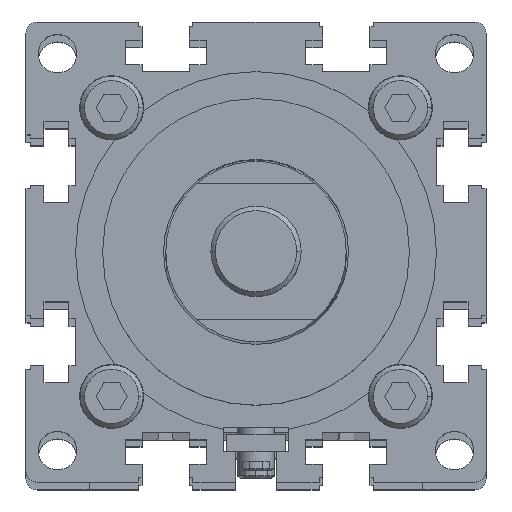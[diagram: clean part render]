
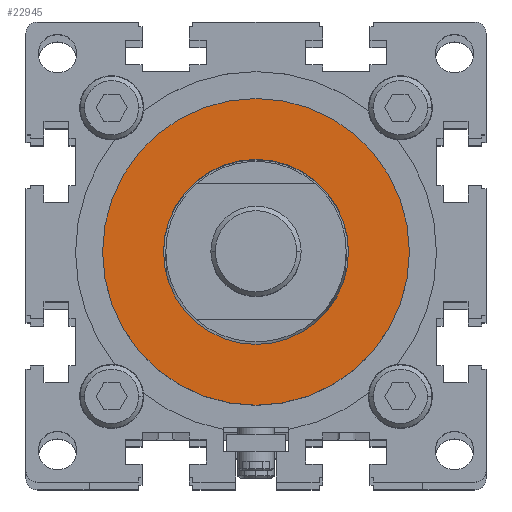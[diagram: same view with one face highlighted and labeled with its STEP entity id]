
A CAD part, top view. The second image highlights one B-rep face of the part: STEP entity #22945.
In plain terms, the highlighted planar face has unit normal (0, 0, 1) as drawn and (1, 0, 0) by its records, which use the part's own axes.
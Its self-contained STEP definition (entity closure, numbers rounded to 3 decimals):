
#4 = DIRECTION ( 'NONE',  ( 1., 0., 0. ) ) ;
#121 = DIRECTION ( 'NONE',  ( 0., 0., -1. ) ) ;
#339 = EDGE_CURVE ( 'NONE', #10786, #1276, #14738, .T. ) ;
#1023 = ORIENTED_EDGE ( 'NONE', *, *, #20042, .T. ) ;
#1276 = VERTEX_POINT ( 'NONE', #19247 ) ;
#2589 = ORIENTED_EDGE ( 'NONE', *, *, #339, .F. ) ;
#3333 = VERTEX_POINT ( 'NONE', #12827 ) ;
#3701 = ORIENTED_EDGE ( 'NONE', *, *, #11165, .F. ) ;
#3863 = CARTESIAN_POINT ( 'NONE',  ( 22., 0., 0. ) ) ;
#3912 = EDGE_LOOP ( 'NONE', ( #7719, #1023 ) ) ;
#4427 = DIRECTION ( 'NONE',  ( 1., 0., 0. ) ) ;
#4813 = CARTESIAN_POINT ( 'NONE',  ( 22., 0., 0. ) ) ;
#5112 = FACE_OUTER_BOUND ( 'NONE', #3912, .T. ) ;
#5286 = DIRECTION ( 'NONE',  ( 1., 0., 0. ) ) ;
#5688 = AXIS2_PLACEMENT_3D ( 'NONE', #3863, #22240, #121 ) ;
#6255 = PLANE ( 'NONE',  #8700 ) ;
#6628 = DIRECTION ( 'NONE',  ( 0., 0., -1. ) ) ;
#6775 = DIRECTION ( 'NONE',  ( 0., 0., -1. ) ) ;
#7397 = DIRECTION ( 'NONE',  ( 0., 0., -1. ) ) ;
#7719 = ORIENTED_EDGE ( 'NONE', *, *, #13304, .T. ) ;
#8700 = AXIS2_PLACEMENT_3D ( 'NONE', #13496, #4427, #19298 ) ;
#8962 = CARTESIAN_POINT ( 'NONE',  ( 22., 0., 0. ) ) ;
#10398 = CARTESIAN_POINT ( 'NONE',  ( 22., 0., -20.5 ) ) ;
#10786 = VERTEX_POINT ( 'NONE', #10398 ) ;
#11165 = EDGE_CURVE ( 'NONE', #1276, #10786, #23646, .T. ) ;
#11367 = EDGE_LOOP ( 'NONE', ( #2589, #3701 ) ) ;
#12827 = CARTESIAN_POINT ( 'NONE',  ( 22., 0., 34. ) ) ;
#13304 = EDGE_CURVE ( 'NONE', #3333, #16173, #17724, .T. ) ;
#13496 = CARTESIAN_POINT ( 'NONE',  ( 22., 0., 0. ) ) ;
#14738 = CIRCLE ( 'NONE', #16670, 20.5 ) ;
#14895 = CARTESIAN_POINT ( 'NONE',  ( 22., 0., 0. ) ) ;
#15799 = AXIS2_PLACEMENT_3D ( 'NONE', #14895, #4, #7397 ) ;
#16173 = VERTEX_POINT ( 'NONE', #16394 ) ;
#16394 = CARTESIAN_POINT ( 'NONE',  ( 22., 0., -34. ) ) ;
#16670 = AXIS2_PLACEMENT_3D ( 'NONE', #8962, #23689, #6775 ) ;
#17724 = CIRCLE ( 'NONE', #15799, 34. ) ;
#19247 = CARTESIAN_POINT ( 'NONE',  ( 22., 0., 20.5 ) ) ;
#19298 = DIRECTION ( 'NONE',  ( 0., 0., -1. ) ) ;
#20042 = EDGE_CURVE ( 'NONE', #16173, #3333, #21131, .T. ) ;
#20870 = FACE_BOUND ( 'NONE', #11367, .T. ) ;
#21131 = CIRCLE ( 'NONE', #5688, 34. ) ;
#22240 = DIRECTION ( 'NONE',  ( 1., 0., 0. ) ) ;
#22861 = AXIS2_PLACEMENT_3D ( 'NONE', #4813, #5286, #6628 ) ;
#22945 = ADVANCED_FACE ( 'NONE', ( #20870, #5112 ), #6255, .T. ) ;
#23646 = CIRCLE ( 'NONE', #22861, 20.5 ) ;
#23689 = DIRECTION ( 'NONE',  ( 1., 0., 0. ) ) ;
